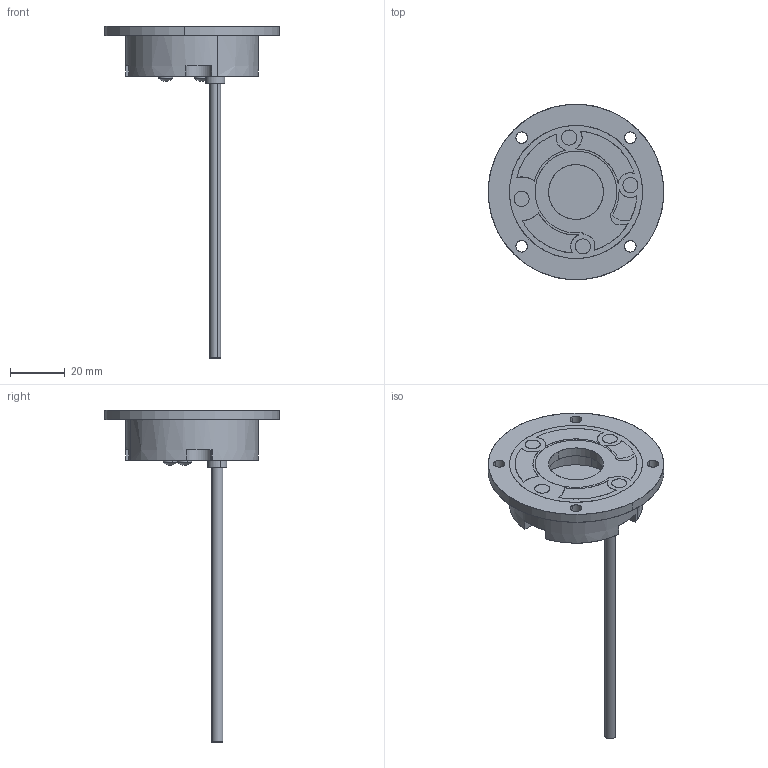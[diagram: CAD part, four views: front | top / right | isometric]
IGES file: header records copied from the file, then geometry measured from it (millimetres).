
Start section: SolidWorks IGES file using analytic representation for surfaces
Global section: file name: C:\Users\Toshiba\Desktop\SR30.IGS; native system: SolidWorks 2014; preprocessor: SolidWorks 2014; author: Toshiba; date: 160621.084537; units: metre
Bounding box: 64 x 64 x 121 mm (x, y, z)
Surface area: 19798.5 mm2 (no closed solid volume)
Topology: 0 solids, 0 shells, 88 faces, 1894 edges, 1894 vertices
Faces by surface type: revolution 60, bspline 28
